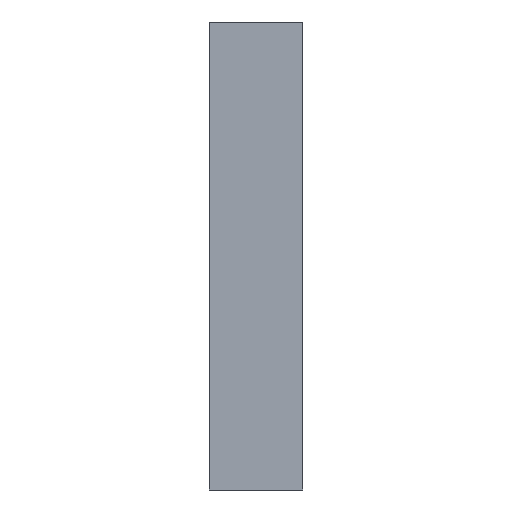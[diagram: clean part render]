
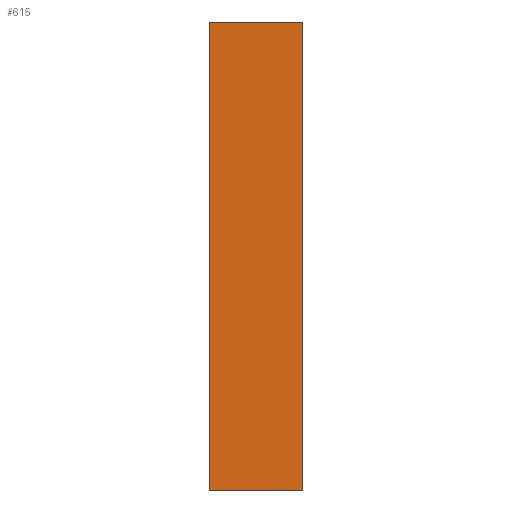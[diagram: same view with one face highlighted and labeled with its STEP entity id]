
A CAD part, left-side view. The second image highlights one B-rep face of the part: STEP entity #615.
In plain terms, the highlighted planar face has unit normal (-1, 0, 0).
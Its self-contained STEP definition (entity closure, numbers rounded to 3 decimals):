
#332=ORIENTED_EDGE('',*,*,#440,.T.);
#333=ORIENTED_EDGE('',*,*,#441,.F.);
#334=ORIENTED_EDGE('',*,*,#442,.F.);
#335=ORIENTED_EDGE('',*,*,#443,.T.);
#390=VECTOR('',#521,1.);
#391=VECTOR('',#522,1.);
#392=VECTOR('',#523,1.);
#393=VECTOR('',#524,1.);
#404=LINE('',#635,#390);
#405=LINE('',#637,#391);
#406=LINE('',#639,#392);
#407=LINE('',#640,#393);
#418=VERTEX_POINT('',#633);
#419=VERTEX_POINT('',#634);
#420=VERTEX_POINT('',#636);
#421=VERTEX_POINT('',#638);
#440=EDGE_CURVE('',#418,#419,#404,.T.);
#441=EDGE_CURVE('',#420,#419,#405,.T.);
#442=EDGE_CURVE('',#421,#420,#406,.T.);
#443=EDGE_CURVE('',#421,#418,#407,.T.);
#469=EDGE_LOOP('',(#332,#333,#334,#335));
#494=FACE_BOUND('',#469,.T.);
#519=DIRECTION('',(-1.,0.,0.));
#520=DIRECTION('',(0.,1.,0.));
#521=DIRECTION('',(0.,0.,25.));
#522=DIRECTION('',(0.,-5.,0.));
#523=DIRECTION('',(0.,0.,25.));
#524=DIRECTION('',(0.,-5.,0.));
#583=AXIS2_PLACEMENT_3D('',#632,#519,#520);
#608=PLANE('',#583);
#615=ADVANCED_FACE('',(#494),#608,.T.);
#632=CARTESIAN_POINT('',(0.,0.,25.));
#633=CARTESIAN_POINT('',(0.,0.,0.));
#634=CARTESIAN_POINT('',(0.,0.,25.));
#635=CARTESIAN_POINT('',(0.,0.,0.));
#636=CARTESIAN_POINT('',(0.,5.,25.));
#637=CARTESIAN_POINT('',(0.,5.,25.));
#638=CARTESIAN_POINT('',(0.,5.,0.));
#639=CARTESIAN_POINT('',(0.,5.,0.));
#640=CARTESIAN_POINT('',(0.,5.,0.));
